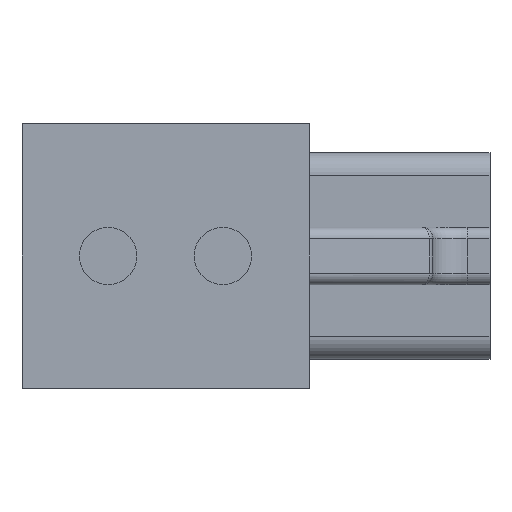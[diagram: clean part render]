
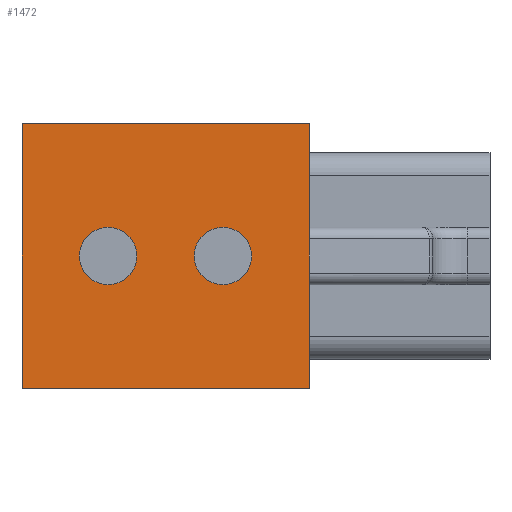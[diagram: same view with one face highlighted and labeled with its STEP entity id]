
A CAD part, front view. The second image highlights one B-rep face of the part: STEP entity #1472.
In plain terms, the highlighted planar face has unit normal (0, -1, 0).
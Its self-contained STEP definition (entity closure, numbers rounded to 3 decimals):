
#56=FACE_BOUND('',#343,.T.);
#57=FACE_BOUND('',#344,.T.);
#123=CIRCLE('',#1624,2.5);
#124=CIRCLE('',#1626,2.5);
#159=PLANE('',#1628);
#247=FACE_OUTER_BOUND('',#342,.T.);
#342=EDGE_LOOP('',(#1346,#1347,#1348,#1349));
#343=EDGE_LOOP('',(#1350));
#344=EDGE_LOOP('',(#1351));
#429=LINE('',#2967,#531);
#435=LINE('',#2978,#537);
#442=LINE('',#2992,#544);
#444=LINE('',#2995,#546);
#531=VECTOR('',#1974,10.);
#537=VECTOR('',#1982,10.);
#544=VECTOR('',#1993,10.);
#546=VECTOR('',#1997,10.);
#712=VERTEX_POINT('',#2965);
#713=VERTEX_POINT('',#2966);
#717=VERTEX_POINT('',#2976);
#722=VERTEX_POINT('',#2991);
#723=VERTEX_POINT('',#3196);
#724=VERTEX_POINT('',#3200);
#908=EDGE_CURVE('',#712,#713,#429,.T.);
#914=EDGE_CURVE('',#713,#717,#435,.T.);
#921=EDGE_CURVE('',#717,#722,#442,.T.);
#923=EDGE_CURVE('',#712,#722,#444,.T.);
#930=EDGE_CURVE('',#723,#723,#123,.T.);
#932=EDGE_CURVE('',#724,#724,#124,.T.);
#1346=ORIENTED_EDGE('',*,*,#908,.T.);
#1347=ORIENTED_EDGE('',*,*,#914,.T.);
#1348=ORIENTED_EDGE('',*,*,#921,.T.);
#1349=ORIENTED_EDGE('',*,*,#923,.F.);
#1350=ORIENTED_EDGE('',*,*,#930,.T.);
#1351=ORIENTED_EDGE('',*,*,#932,.T.);
#1472=ADVANCED_FACE('',(#247,#56,#57),#159,.T.);
#1624=AXIS2_PLACEMENT_3D('',#3197,#2006,#2007);
#1626=AXIS2_PLACEMENT_3D('',#3201,#2011,#2012);
#1628=AXIS2_PLACEMENT_3D('',#3204,#2016,#2017);
#1974=DIRECTION('',(1.,0.,0.));
#1982=DIRECTION('',(0.,0.,1.));
#1993=DIRECTION('',(-1.,0.,0.));
#1997=DIRECTION('',(0.,0.,1.));
#2006=DIRECTION('center_axis',(0.,1.,0.));
#2007=DIRECTION('ref_axis',(1.,0.,0.));
#2011=DIRECTION('center_axis',(0.,1.,0.));
#2012=DIRECTION('ref_axis',(1.,0.,0.));
#2016=DIRECTION('center_axis',(0.,-1.,0.));
#2017=DIRECTION('ref_axis',(1.,0.,0.));
#2965=CARTESIAN_POINT('',(-25.,0.,-9.));
#2966=CARTESIAN_POINT('',(0.,0.,-9.));
#2967=CARTESIAN_POINT('',(-12.5,0.,-9.));
#2976=CARTESIAN_POINT('',(0.,0.,14.));
#2978=CARTESIAN_POINT('',(0.,0.,0.));
#2991=CARTESIAN_POINT('',(-25.,0.,14.));
#2992=CARTESIAN_POINT('',(-25.,0.,14.));
#2995=CARTESIAN_POINT('',(-25.,0.,0.));
#3196=CARTESIAN_POINT('',(-20.,0.,2.5));
#3197=CARTESIAN_POINT('Origin',(-17.5,0.,2.5));
#3200=CARTESIAN_POINT('',(-10.,0.,2.5));
#3201=CARTESIAN_POINT('Origin',(-7.5,0.,2.5));
#3204=CARTESIAN_POINT('Origin',(-25.,0.,0.));
